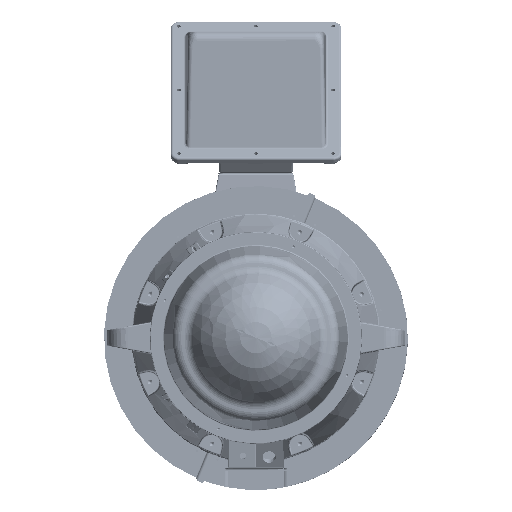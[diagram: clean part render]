
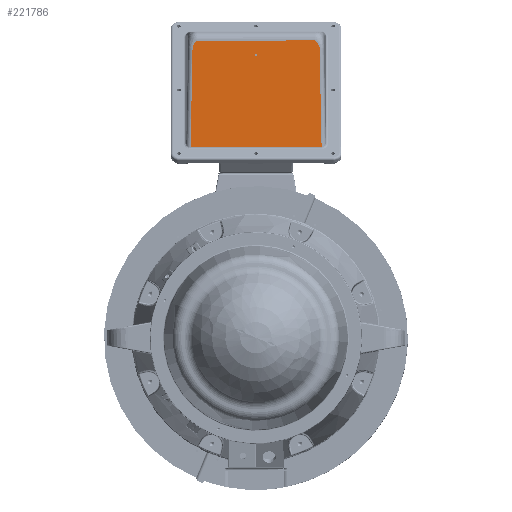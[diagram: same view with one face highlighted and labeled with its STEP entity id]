
A CAD part, top view. The second image highlights one B-rep face of the part: STEP entity #221786.
In plain terms, the highlighted planar face has unit normal (0, 0, 1) as drawn and (0, -1, 0) by its records, which use the part's own axes.
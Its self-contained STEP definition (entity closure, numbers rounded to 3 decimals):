
#219544=CARTESIAN_POINT('',(15.091,0.,
7.436));
#219564=DIRECTION('',(0.,0.,1.));
#219565=VECTOR('',#219564,14.872);
#219566=CARTESIAN_POINT('',(15.091,0.,
-7.436));
#219567=LINE('',#219566,#219565);
#219604=DIRECTION('',(1.,0.,-0.02));
#219605=VECTOR('',#219604,11.291);
#219606=CARTESIAN_POINT('',(3.802,0.,
-7.209));
#219607=LINE('',#219606,#219605);
#219664=DIRECTION('',(1.,0.,0.02));
#219665=VECTOR('',#219664,11.291);
#219666=CARTESIAN_POINT('',(3.802,0.,
7.209));
#219667=LINE('',#219666,#219665);
#219677=CARTESIAN_POINT('',(2.969,0.,
-6.701));
#219678=CARTESIAN_POINT('',(3.21,0.,
-6.92));
#219679=CARTESIAN_POINT('',(3.471,0.,
-7.203));
#219680=CARTESIAN_POINT('',(3.802,0.,
-7.209));
#219682=CARTESIAN_POINT('',(2.969,0.,
6.701));
#219683=CARTESIAN_POINT('',(3.21,0.,
6.92));
#219684=CARTESIAN_POINT('',(3.471,0.,
7.203));
#219685=CARTESIAN_POINT('',(3.802,0.,
7.209));
#219687=CARTESIAN_POINT('',(4.599,0.,
0.006));
#219688=DIRECTION('',(0.,-1.,0.));
#219689=DIRECTION('',(0.,0.,1.));
#219690=AXIS2_PLACEMENT_3D('',#219687,#219688,#219689);
#219692=CARTESIAN_POINT('',(4.599,0.,
0.006));
#219693=DIRECTION('',(0.,-1.,0.));
#219694=DIRECTION('',(0.,0.,-1.));
#219695=AXIS2_PLACEMENT_3D('',#219692,#219693,#219694);
#219719=DIRECTION('',(0.,0.,-1.));
#219720=VECTOR('',#219719,13.402);
#219721=CARTESIAN_POINT('',(2.969,0.,
6.701));
#219722=LINE('',#219721,#219720);
#220995=VERTEX_POINT('',#219682);
#220996=VERTEX_POINT('',#219685);
#220997=CARTESIAN_POINT('',(2.969,0.,
-6.701));
#220998=VERTEX_POINT('',#220997);
#221006=VERTEX_POINT('',#219680);
#221063=VERTEX_POINT('',#219544);
#221066=CARTESIAN_POINT('',(15.091,0.,
-7.436));
#221067=VERTEX_POINT('',#221066);
#221275=CARTESIAN_POINT('',(4.599,0.,
0.163));
#221276=CARTESIAN_POINT('',(4.599,0.,
-0.15));
#221277=VERTEX_POINT('',#221275);
#221278=VERTEX_POINT('',#221276);
#221764=CARTESIAN_POINT('',(1.969,0.,7.93));
#221765=DIRECTION('',(0.,-1.,0.));
#221766=DIRECTION('',(1.,0.,0.));
#221767=AXIS2_PLACEMENT_3D('',#221764,#221765,#221766);
#221768=PLANE('',#221767);
#221769=ORIENTED_EDGE('',*,*,#221598,.F.);
#221770=ORIENTED_EDGE('',*,*,#221667,.F.);
#221772=ORIENTED_EDGE('',*,*,#221771,.F.);
#221774=ORIENTED_EDGE('',*,*,#221773,.F.);
#221776=ORIENTED_EDGE('',*,*,#221775,.T.);
#221777=ORIENTED_EDGE('',*,*,#221756,.T.);
#221778=EDGE_LOOP('',(#221769,#221770,#221772,#221774,#221776,#221777));
#221779=FACE_OUTER_BOUND('',#221778,.F.);
#221781=ORIENTED_EDGE('',*,*,#221780,.T.);
#221783=ORIENTED_EDGE('',*,*,#221782,.T.);
#221784=EDGE_LOOP('',(#221781,#221783));
#221785=FACE_BOUND('',#221784,.F.);
#221786=ADVANCED_FACE('',(#221779,#221785),#221768,.T.);
#219681=B_SPLINE_CURVE_WITH_KNOTS('',3,(#219677,#219678,#219679,#219680),
.UNSPECIFIED.,.F.,.F.,(4,4),(0.,1.),.UNSPECIFIED.);
#219686=B_SPLINE_CURVE_WITH_KNOTS('',3,(#219682,#219683,#219684,#219685),
.UNSPECIFIED.,.F.,.F.,(4,4),(0.,1.),.UNSPECIFIED.);
#219691=CIRCLE('',#219690,0.157);
#219696=CIRCLE('',#219695,0.157);
#221598=EDGE_CURVE('',#221067,#221063,#219567,.T.);
#221667=EDGE_CURVE('',#221006,#221067,#219607,.T.);
#221756=EDGE_CURVE('',#220996,#221063,#219667,.T.);
#221771=EDGE_CURVE('',#220998,#221006,#219681,.T.);
#221773=EDGE_CURVE('',#220995,#220998,#219722,.T.);
#221775=EDGE_CURVE('',#220995,#220996,#219686,.T.);
#221780=EDGE_CURVE('',#221277,#221278,#219691,.T.);
#221782=EDGE_CURVE('',#221278,#221277,#219696,.T.);
